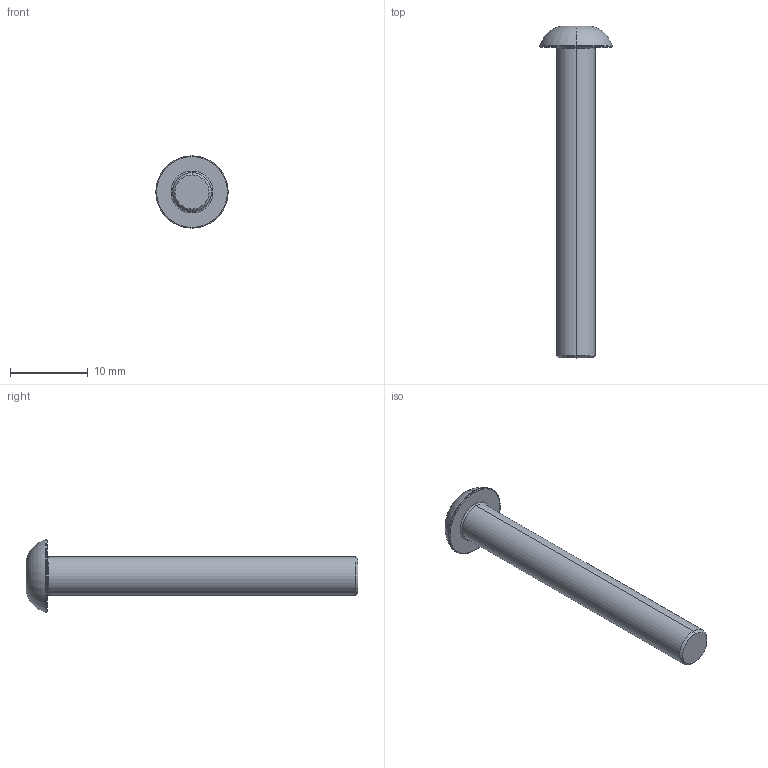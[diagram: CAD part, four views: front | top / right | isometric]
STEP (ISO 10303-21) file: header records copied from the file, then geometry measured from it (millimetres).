
FILE_DESCRIPTION (( 'STEP AP203' ), '1' );
FILE_NAME ('LGDD-304-M5x40.STEP', '2026-08-08T04:47:35', ( '' ), ( '' ), 'SwSTEP 2.0', 'SolidWorks 2020', '' );
FILE_SCHEMA (( 'CONFIG_CONTROL_DESIGN' ));
Length unit declared in the file: millimetre
Products named in the file (1): LGDD-304-M5x40
Bounding box: 9.3 x 42.7 x 9.3 mm (x, y, z)
Volume: 899.2 mm3; surface area: 816.7 mm2
Topology: 1 solids, 1 shells, 31 faces, 59 edges, 32 vertices
Faces by surface type: plane 10, cone 9, torus 8, cylinder 4
Entity records: 864 total; most frequent: CARTESIAN_POINT 154, DIRECTION 149, ORIENTED_EDGE 118, AXIS2_PLACEMENT_3D 65, EDGE_CURVE 59, EDGE_LOOP 33, CIRCLE 33, VERTEX_POINT 32
